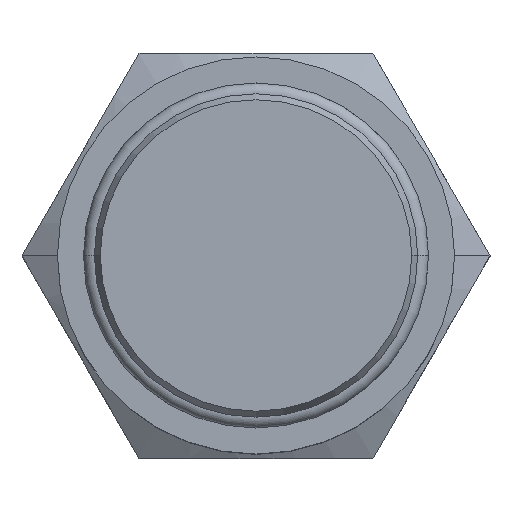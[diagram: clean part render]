
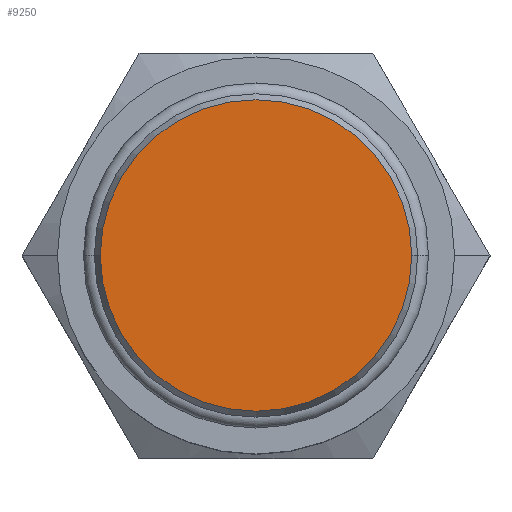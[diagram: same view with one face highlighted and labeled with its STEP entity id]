
A CAD part, top view. The second image highlights one B-rep face of the part: STEP entity #9250.
In plain terms, the highlighted planar face has unit normal (0, 0, 1).
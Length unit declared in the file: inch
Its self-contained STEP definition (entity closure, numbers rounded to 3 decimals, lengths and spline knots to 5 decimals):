
#555 = DIRECTION ( 'NONE',  ( -1., 0., 0. ) ) ;
#897 = AXIS2_PLACEMENT_3D ( 'NONE', #5298, #13218, #6437 ) ;
#945 = FACE_OUTER_BOUND ( 'NONE', #6715, .T. ) ;
#1426 = EDGE_CURVE ( 'NONE', #9744, #1683, #8935, .T. ) ;
#1683 = VERTEX_POINT ( 'NONE', #6818 ) ;
#2452 = AXIS2_PLACEMENT_3D ( 'NONE', #12920, #7271, #555 ) ;
#3388 = CARTESIAN_POINT ( 'NONE',  ( -0.23916, 0., 0.35 ) ) ;
#4420 = ORIENTED_EDGE ( 'NONE', *, *, #1426, .F. ) ;
#5298 = CARTESIAN_POINT ( 'NONE',  ( 0., 0., 0.35 ) ) ;
#5448 = CARTESIAN_POINT ( 'NONE',  ( 0., 0., 0.35 ) ) ;
#6128 = PLANE ( 'NONE',  #2452 ) ;
#6437 = DIRECTION ( 'NONE',  ( -1., 0., 0. ) ) ;
#6584 = DIRECTION ( 'NONE',  ( -1., 0., 0. ) ) ;
#6715 = EDGE_LOOP ( 'NONE', ( #4420, #14027 ) ) ;
#6818 = CARTESIAN_POINT ( 'NONE',  ( 0.23916, 0., 0.35 ) ) ;
#7271 = DIRECTION ( 'NONE',  ( 0., 0., -1. ) ) ;
#7439 = CIRCLE ( 'NONE', #12330, 0.23916 ) ;
#8935 = CIRCLE ( 'NONE', #897, 0.23916 ) ;
#9250 = ADVANCED_FACE ( 'NONE', ( #945 ), #6128, .F. ) ;
#9615 = EDGE_CURVE ( 'NONE', #1683, #9744, #7439, .T. ) ;
#9744 = VERTEX_POINT ( 'NONE', #3388 ) ;
#12330 = AXIS2_PLACEMENT_3D ( 'NONE', #5448, #13371, #6584 ) ;
#12920 = CARTESIAN_POINT ( 'NONE',  ( 0., 0., 0.35 ) ) ;
#13218 = DIRECTION ( 'NONE',  ( 0., 0., -1. ) ) ;
#13371 = DIRECTION ( 'NONE',  ( 0., 0., -1. ) ) ;
#14027 = ORIENTED_EDGE ( 'NONE', *, *, #9615, .F. ) ;
